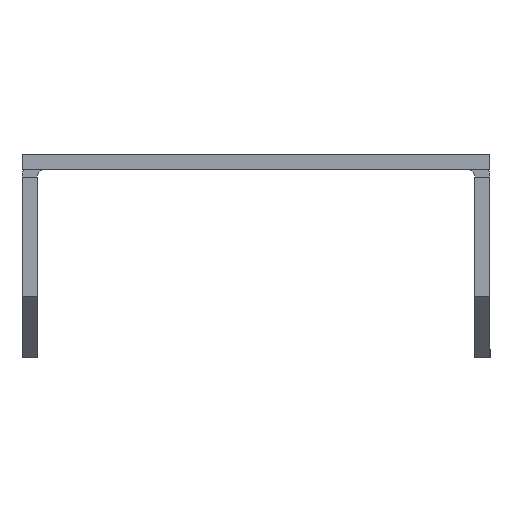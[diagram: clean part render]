
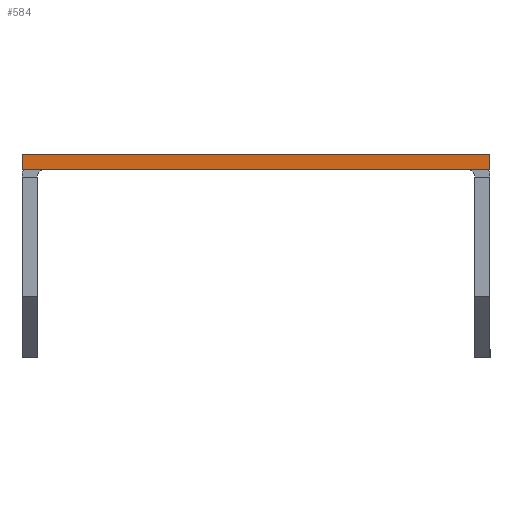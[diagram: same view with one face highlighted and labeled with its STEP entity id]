
A CAD part, left-side view. The second image highlights one B-rep face of the part: STEP entity #584.
In plain terms, the highlighted planar face has unit normal (-1, 0, 0).
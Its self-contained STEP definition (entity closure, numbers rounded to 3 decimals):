
#67 = LINE ( 'NONE', #376, #241 ) ;
#147 = FACE_OUTER_BOUND ( 'NONE', #315, .T. ) ;
#156 = CARTESIAN_POINT ( 'NONE',  ( 0., 0., -1.5 ) ) ;
#184 = CARTESIAN_POINT ( 'NONE',  ( 0., 46., 0. ) ) ;
#185 = DIRECTION ( 'NONE',  ( 0., 0., 1. ) ) ;
#206 = VECTOR ( 'NONE', #282, 1000. ) ;
#241 = VECTOR ( 'NONE', #185, 1000. ) ;
#282 = DIRECTION ( 'NONE',  ( 0., -1., 0. ) ) ;
#315 = EDGE_LOOP ( 'NONE', ( #901, #1289, #851, #1126 ) ) ;
#330 = PLANE ( 'NONE',  #399 ) ;
#376 = CARTESIAN_POINT ( 'NONE',  ( 0., 46., -1.5 ) ) ;
#398 = CARTESIAN_POINT ( 'NONE',  ( 0., 0., -1.5 ) ) ;
#399 = AXIS2_PLACEMENT_3D ( 'NONE', #718, #843, #738 ) ;
#502 = DIRECTION ( 'NONE',  ( 0., -1., 0. ) ) ;
#584 = ADVANCED_FACE ( 'NONE', ( #147 ), #330, .T. ) ;
#620 = EDGE_CURVE ( 'NONE', #1136, #776, #857, .T. ) ;
#718 = CARTESIAN_POINT ( 'NONE',  ( 0., 0., -1.5 ) ) ;
#738 = DIRECTION ( 'NONE',  ( 0., 0., 1. ) ) ;
#776 = VERTEX_POINT ( 'NONE', #1019 ) ;
#798 = CARTESIAN_POINT ( 'NONE',  ( 0., 46., -1.5 ) ) ;
#815 = EDGE_CURVE ( 'NONE', #1138, #1086, #67, .T. ) ;
#823 = LINE ( 'NONE', #1112, #860 ) ;
#843 = DIRECTION ( 'NONE',  ( -1., 0., 0. ) ) ;
#851 = ORIENTED_EDGE ( 'NONE', *, *, #1231, .T. ) ;
#857 = LINE ( 'NONE', #156, #1153 ) ;
#860 = VECTOR ( 'NONE', #502, 1000. ) ;
#901 = ORIENTED_EDGE ( 'NONE', *, *, #1099, .F. ) ;
#995 = CARTESIAN_POINT ( 'NONE',  ( 0., 0., 0. ) ) ;
#1013 = LINE ( 'NONE', #995, #206 ) ;
#1019 = CARTESIAN_POINT ( 'NONE',  ( 0., 0., 0. ) ) ;
#1086 = VERTEX_POINT ( 'NONE', #184 ) ;
#1099 = EDGE_CURVE ( 'NONE', #1086, #776, #1013, .T. ) ;
#1112 = CARTESIAN_POINT ( 'NONE',  ( 0., 0., -1.5 ) ) ;
#1126 = ORIENTED_EDGE ( 'NONE', *, *, #620, .T. ) ;
#1136 = VERTEX_POINT ( 'NONE', #398 ) ;
#1138 = VERTEX_POINT ( 'NONE', #798 ) ;
#1149 = DIRECTION ( 'NONE',  ( 0., 0., 1. ) ) ;
#1153 = VECTOR ( 'NONE', #1149, 1000. ) ;
#1231 = EDGE_CURVE ( 'NONE', #1138, #1136, #823, .T. ) ;
#1289 = ORIENTED_EDGE ( 'NONE', *, *, #815, .F. ) ;
